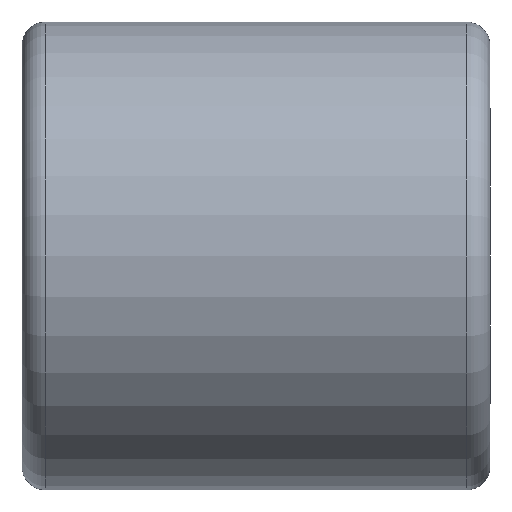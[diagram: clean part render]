
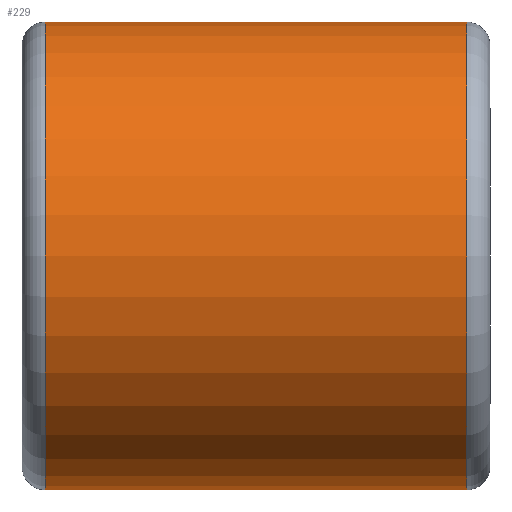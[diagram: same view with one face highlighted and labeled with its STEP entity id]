
A CAD part, front view. The second image highlights one B-rep face of the part: STEP entity #229.
In plain terms, the highlighted cylindrical face has radius 4 mm (diameter 8 mm), a full revolution.
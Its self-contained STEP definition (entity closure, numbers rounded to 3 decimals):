
#75=CYLINDRICAL_SURFACE('',#252,4.);
#83=FACE_BOUND('',#117,.T.);
#98=FACE_OUTER_BOUND('',#116,.T.);
#116=EDGE_LOOP('',(#196));
#117=EDGE_LOOP('',(#197));
#147=CIRCLE('',#251,4.);
#148=CIRCLE('',#253,4.);
#163=VERTEX_POINT('',#396);
#164=VERTEX_POINT('',#399);
#179=EDGE_CURVE('',#163,#163,#147,.T.);
#180=EDGE_CURVE('',#164,#164,#148,.T.);
#196=ORIENTED_EDGE('',*,*,#180,.F.);
#197=ORIENTED_EDGE('',*,*,#179,.F.);
#229=ADVANCED_FACE('',(#98,#83),#75,.T.);
#251=AXIS2_PLACEMENT_3D('',#397,#302,#303);
#252=AXIS2_PLACEMENT_3D('',#398,#304,#305);
#253=AXIS2_PLACEMENT_3D('',#400,#306,#307);
#302=DIRECTION('center_axis',(-1.,0.,0.));
#303=DIRECTION('ref_axis',(0.,-1.,0.));
#304=DIRECTION('center_axis',(1.,0.,0.));
#305=DIRECTION('ref_axis',(0.,1.,0.));
#306=DIRECTION('center_axis',(1.,0.,0.));
#307=DIRECTION('ref_axis',(0.,-1.,0.));
#396=CARTESIAN_POINT('',(-3.6,4.,0.));
#397=CARTESIAN_POINT('Origin',(-3.6,0.,0.));
#398=CARTESIAN_POINT('Origin',(0.,0.,
0.));
#399=CARTESIAN_POINT('',(3.6,4.,0.));
#400=CARTESIAN_POINT('Origin',(3.6,0.,0.));
